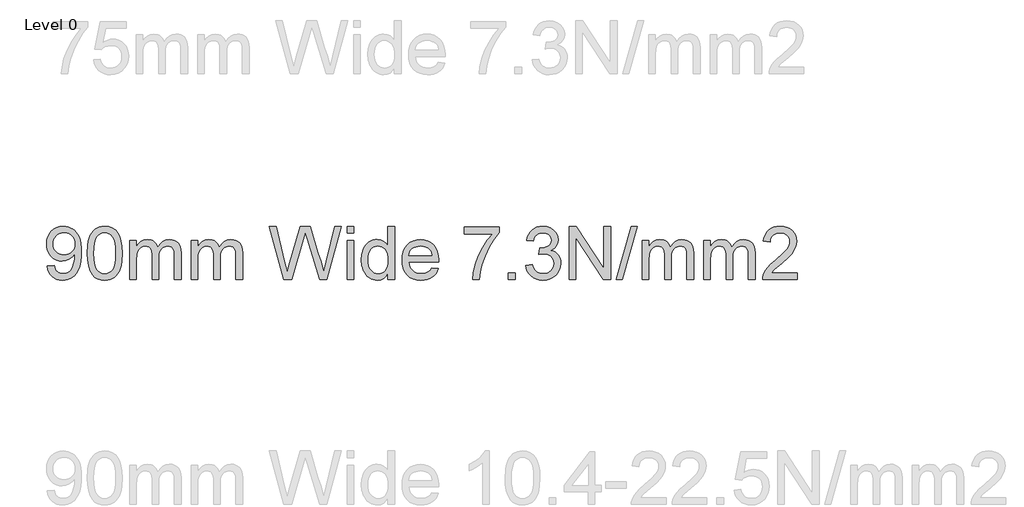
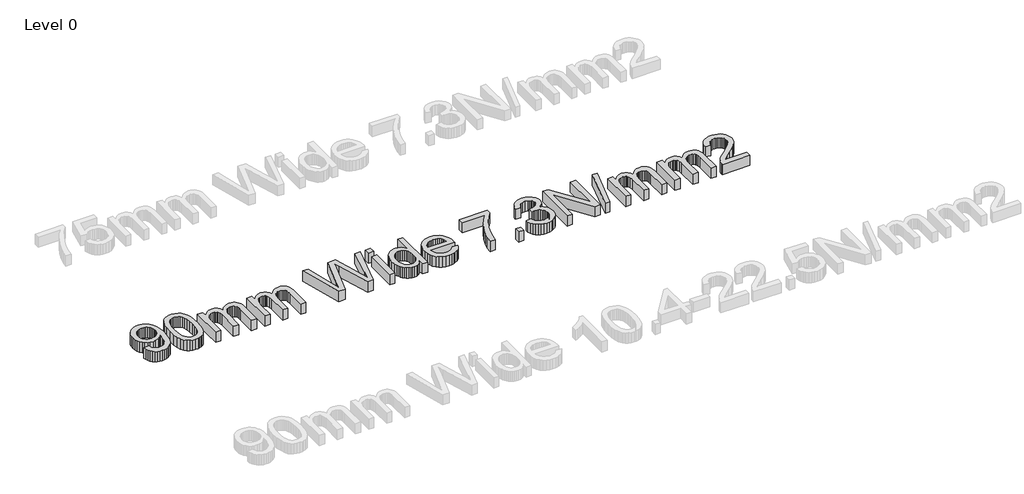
# One storey, part 6 of 14: 1 proxy.
"""IFC4 building model written with IfcOpenShell, lengths in millimetres."""

import ifcopenshell
import ifcopenshell.guid

model = None  # the IFC model being written
_history = None  # IfcOwnerHistory: only IFC2X3 demands one
_inside = {}  # id of a spatial element -> (the spatial element, [elements in it])
_under = {}  # id of a project, library or spatial element -> (it, [spatial elements below it])
_declared = {}  # id of a project -> (the project, [libraries it declares])
_typed = {}  # id of a type object -> (the type object, [elements of that type])
_made_of = {}  # id of a material, layer set ... -> (it, [elements and type objects made of it])


def new_model(schema):
    """Start an empty IFC model of exactly this schema.

    Asked for "IFC4X3", IfcOpenShell would pick the latest addendum, in which some entities
    have other attributes; the version numbers below select the first issue.
    IFC2X3 requires an IfcOwnerHistory on every rooted entity: one is made here for all.
    """
    global model, _history
    if schema == "IFC4X3":
        model = ifcopenshell.file(schema_version=(4, 3, 0, 0))
    else:
        model = ifcopenshell.file(schema=schema)
    _inside.clear()
    _under.clear()
    _declared.clear()
    _typed.clear()
    _made_of.clear()
    _history = None
    if model.schema == "IFC2X3":
        org = make("IfcOrganization", Name="unknown")
        user = make(
            "IfcPersonAndOrganization",
            ThePerson=make("IfcPerson", FamilyName="unknown"),
            TheOrganization=org,
        )
        app = make(
            "IfcApplication",
            ApplicationDeveloper=org,
            Version="unknown",
            ApplicationFullName="unknown",
            ApplicationIdentifier="unknown",
        )
        _history = make(
            "IfcOwnerHistory",
            OwningUser=user,
            OwningApplication=app,
            ChangeAction="ADDED",
            CreationDate=0,
        )
    return model


def make(cls, **values):
    """One entity of the class cls with the attributes given. An attribute that is None is left unset."""
    return model.create_entity(
        cls, **{name: value for name, value in values.items() if value is not None}
    )


def rooted(cls, **values):
    """An entity with a GlobalId (a new one), such as an element, a storey or a relation."""
    return make(cls, GlobalId=ifcopenshell.guid.new(), OwnerHistory=_history, **values)


def si_unit(unit_type, name, prefix=None):
    """IfcSIUnit, for example si_unit("LENGTHUNIT", "METRE", prefix="MILLI")."""
    return make("IfcSIUnit", UnitType=unit_type, Prefix=prefix, Name=name)


def assignment(units):
    """IfcUnitAssignment: the units of a project."""
    return None if units is None else make("IfcUnitAssignment", Units=units)


def point(xyz):
    """IfcCartesianPoint."""
    return None if xyz is None else make("IfcCartesianPoint", Coordinates=xyz)


def direction(xyz):
    """IfcDirection."""
    return None if xyz is None else make("IfcDirection", DirectionRatios=xyz)


def frame(location, z_axis=None, x_axis=None):
    """IfcAxis2Placement3D, a coordinate frame: its origin and axes. An axis left out is left unset."""
    return make(
        "IfcAxis2Placement3D",
        Location=point(location),
        Axis=direction(z_axis),
        RefDirection=direction(x_axis),
    )


def origin():
    """The frame at (0, 0, 0) with its axes left unset."""
    return frame((0.0, 0.0, 0.0))


def origin_with_axes():
    """The frame at (0, 0, 0) with the z axis (0, 0, 1) and the x axis (1, 0, 0) written out."""
    return frame((0.0, 0.0, 0.0), z_axis=(0.0, 0.0, 1.0), x_axis=(1.0, 0.0, 0.0))


def place(relative_to, where):
    """IfcLocalPlacement: puts the frame where relative to a parent placement (None: the world)."""
    return make(
        "IfcLocalPlacement", PlacementRelTo=relative_to, RelativePlacement=where
    )


def context(
    kind, dimensions, precision=None, world=None, true_north=None, identifier=None
):
    """IfcGeometricRepresentationContext, for example the 3D "Model" context."""
    return make(
        "IfcGeometricRepresentationContext",
        ContextIdentifier=identifier,
        ContextType=kind,
        CoordinateSpaceDimension=dimensions,
        Precision=precision,
        WorldCoordinateSystem=world,
        TrueNorth=true_north,
    )


def project(units=None, contexts=None):
    """IfcProject with its units and contexts."""
    return rooted(
        "IfcProject",
        Name="project",
        RepresentationContexts=contexts,
        UnitsInContext=assignment(units),
    )


def spatial(cls, under=None, at=None, **own):
    """A site, building, storey or space (cls), placed at a placement, below another one or the project."""
    s = rooted(cls, ObjectPlacement=at, **own)
    if under is not None:
        _under.setdefault(under.id(), (under, []))[1].append(s)
    return s


def polyline(points):
    """IfcPolyline through the points."""
    return make("IfcPolyline", Points=[point(p) for p in points])


def outline(outer, holes=None, kind="AREA"):
    """IfcArbitraryClosedProfileDef: a profile drawn as a closed curve; with holes, ...WithVoids."""
    if holes is None:
        return make("IfcArbitraryClosedProfileDef", ProfileType=kind, OuterCurve=outer)
    return make(
        "IfcArbitraryProfileDefWithVoids",
        ProfileType=kind,
        OuterCurve=outer,
        InnerCurves=holes,
    )


def extrude(swept, where, along, depth):
    """IfcExtrudedAreaSolid: the profile swept, set in the frame where, extruded along a direction by depth."""
    return make(
        "IfcExtrudedAreaSolid",
        SweptArea=swept,
        Position=where,
        ExtrudedDirection=direction(along),
        Depth=depth,
    )


def shape(context_of_items, identifier, shape_type, items):
    """IfcShapeRepresentation: the items that make up one representation, for example the "Body"."""
    return make(
        "IfcShapeRepresentation",
        ContextOfItems=context_of_items,
        RepresentationIdentifier=identifier,
        RepresentationType=shape_type,
        Items=items,
    )


def made_of(thing, what):
    """Note that an element or type object is made of a material, layer set ...; save() writes the relation."""
    if what is not None:
        _made_of.setdefault(what.id(), (what, []))[1].append(thing)
    return thing


def element(
    cls,
    number,
    at=None,
    inside=None,
    cuts=None,
    type_object=None,
    material=None,
    context=None,
    identifier="Body",
    shape_type=None,
    held_by="IfcProductDefinitionShape",
    body=None,
    shapes=None,
    **own,
):
    """One element of the class cls, such as IfcWall. Its Tag is "e" and its number.

    at: its placement. inside: the storey or other place that contains it. cuts: it is an
    opening in that element (IfcRelVoidsElement). A single representation is given by context,
    identifier, shape_type and body (its items); several are given by shapes. held_by: the class
    of the entity that holds the representations. save() writes the other relations.
    """
    e = rooted(cls, Tag="e%d" % number, ObjectPlacement=at, **own)
    if body is not None:
        shapes = [shape(context, identifier, shape_type, body)]
    if shapes is not None:
        e.Representation = make(held_by, Representations=shapes)
    if inside is not None:
        _inside.setdefault(inside.id(), (inside, []))[1].append(e)
    if cuts is not None:
        rooted(
            "IfcRelVoidsElement", RelatingBuildingElement=cuts, RelatedOpeningElement=e
        )
    if type_object is not None:
        _typed.setdefault(type_object.id(), (type_object, []))[1].append(e)
    return made_of(e, material)


def aggregate(whole, parts):
    """IfcRelAggregates: a whole, such as a stair, and the parts it consists of."""
    return rooted("IfcRelAggregates", RelatingObject=whole, RelatedObjects=parts)


def save(model, path):
    """Write the relations noted so far, then the file.

    IfcRelAggregates (storeys below a building ...), IfcRelContainedInSpatialStructure (elements
    in a storey), IfcRelDefinesByType, IfcRelAssociatesMaterial and IfcRelDeclares: one each for
    every whole, place, type object, material and project.
    """
    for whole, parts in _under.values():
        aggregate(whole, parts)
    for where, things in _inside.values():
        rooted(
            "IfcRelContainedInSpatialStructure",
            RelatedElements=things,
            RelatingStructure=where,
        )
    for kind, things in _typed.values():
        rooted("IfcRelDefinesByType", RelatedObjects=things, RelatingType=kind)
    for what, things in _made_of.values():
        rooted("IfcRelAssociatesMaterial", RelatedObjects=things, RelatingMaterial=what)
    for by, libraries in _declared.values():
        rooted("IfcRelDeclares", RelatingContext=by, RelatedDefinitions=libraries)
    model.write(path)


model = new_model("IFC4")

# Units and contexts
model_context = context("Model", 3, world=origin())
ifc_project = project(units=[si_unit("LENGTHUNIT", "METRE", prefix="MILLI")], contexts=[model_context])

# Site, building, storey
site = spatial("IfcSite", under=ifc_project)
building = spatial("IfcBuilding", under=site)
storey = spatial("IfcBuildingStorey", under=building, Name="Level 0", Elevation=0.0)

# Proxy
placement = place(None, origin())
element("IfcBuildingElementProxy", 1, Name="600mm Arial", ObjectType="600mm Arial", at=placement, inside=storey, context=model_context, shape_type="SweptSolid", body=[
    extrude(outline(polyline([(-37902.4149048, 17565.513593), (-37828.568751, 17574.7443623), (-37815.9485587, 17532.827295), (-37806.6637029, 17516.8852878), (-37795.3956741, 17504.2876315), (-37782.2706741, 17494.7278358), (-37767.4149048, 17487.8994104), (-37732.5110587, 17482.43667), (-37701.1949529, 17485.952295), (-37672.7274048, 17496.49917), (-37649.0735587, 17512.9234488), (-37632.1985587, 17534.0712854), (-37619.4161068, 17561.8717661), (-37608.0399048, 17598.2539777), (-37600.0350972, 17640.0087854), (-37597.3668279, 17683.9270546), (-37597.7995202, 17698.3501315), (-37623.3824529, 17667.12417), (-37656.8620202, 17642.388593), (-37695.8223568, 17626.2708046), (-37737.8475972, 17620.8982084), (-37772.9272246, 17624.1794584), (-37805.1853375, 17634.0232084), (-37834.6219361, 17650.4294584), (-37861.2370202, 17673.3982084), (-37883.2908063, 17701.7305402), (-37899.0435106, 17734.2275354), (-37908.4951332, 17770.889194), (-37911.6456741, 17811.7155161), (-37908.341888, 17853.9030161), (-37898.4305298, 17891.763593), (-37881.9115996, 17925.2972469), (-37858.7850972, 17954.5039777), (-37830.6826332, 17978.1668382), (-37799.2358183, 17995.0688815), (-37764.4446524, 18005.2101075), (-37726.3091356, 18008.5905161), (-37698.1525851, 18006.6614296), (-37671.2310106, 18000.87417), (-37645.5444121, 17991.2287373), (-37621.0927895, 17977.7251315), (-37598.6919481, 17960.6518142), (-37579.1576933, 17940.2972469), (-37562.490025, 17916.6614296), (-37548.6889433, 17889.7443623), (-37537.8671284, 17857.9955642), (-37530.1372606, 17819.8645546), (-37525.4993399, 17775.3513334), (-37523.9533664, 17724.4559007), (-37525.4948327, 17671.0048791), (-37530.1192318, 17623.296045), (-37537.8265635, 17581.3293983), (-37548.6168279, 17545.1049392), (-37562.4494601, 17513.7392541), (-37579.2838952, 17486.3489296), (-37599.1201332, 17462.9339656), (-37621.9581741, 17443.4943623), (-37647.3382823, 17428.2239296), (-37674.8007222, 17417.3164777), (-37704.3454938, 17410.7720065), (-37735.9725972, 17408.5905161), (-37769.1366597, 17411.1641339), (-37799.1096164, 17418.8849873), (-37825.8914673, 17431.7530762), (-37849.4822125, 17449.7684007), (-37869.2869, 17472.444182), (-37884.7105779, 17499.2936411), (-37895.7532462, 17530.3167781), (-37902.4149048, 17565.513593)]), holes=[polyline([(-37597.7995202, 17813.4462854), (-37599.7917077, 17839.9126315), (-37605.7682702, 17863.4943623), (-37615.7292077, 17884.1914777), (-37629.6745202, 17902.0039777), (-37646.9191116, 17916.3278959), (-37666.7778856, 17926.5592661), (-37689.2508423, 17932.6980882), (-37714.3379818, 17934.7443623), (-37740.2274048, 17932.5403358), (-37763.6649048, 17925.9282565), (-37784.6504818, 17914.9081243), (-37803.1841356, 17899.4799392), (-37818.3283664, 17880.5451435), (-37829.1456741, 17859.0051796), (-37835.6360587, 17834.8600474), (-37837.7995202, 17808.1097469), (-37835.7532462, 17784.1178599), (-37829.6144241, 17762.4787373), (-37819.3830539, 17743.1923791), (-37805.0591356, 17726.2587854), (-37787.2376212, 17712.4712253), (-37766.5134625, 17702.622968), (-37742.8866597, 17696.7140137), (-37716.3572125, 17694.7443623), (-37691.6171284, 17696.7140137), (-37669.1757222, 17702.622968), (-37649.0329938, 17712.4712253), (-37631.1889433, 17726.2587854), (-37616.5810707, 17743.5259128), (-37606.146876, 17763.8128719), (-37599.8863592, 17787.1196628), (-37597.7995202, 17813.4462854)])]), origin_with_axes(), (0.0, 0.0, 1.0), 150.0),
    extrude(outline(polyline([(-37459.3379818, 17708.4462854), (-37453.9112991, 17803.0075834), (-37447.1279457, 17843.1082445), (-37437.631251, 17878.4222469), (-37425.4617798, 17909.2380522), (-37410.6600972, 17935.8441219), (-37393.2262029, 17958.240456), (-37373.1600972, 17976.4270546), (-37350.3941717, 17990.498569), (-37324.8608183, 18000.5496507), (-37296.5600371, 18006.5802998), (-37265.4918279, 18008.5905161), (-37219.9870202, 18003.8309007), (-37179.2418279, 17989.5520546), (-37145.1673087, 17966.3128719), (-37119.6745202, 17934.6722469), (-37100.4197125, 17894.9006123), (-37085.0591356, 17847.2684007), (-37074.9990395, 17786.7816219), (-37071.6456741, 17708.4462854), (-37077.0182702, 17614.4258527), (-37083.7340154, 17574.4604079), (-37093.1360587, 17539.1914777), (-37105.2108784, 17508.3621507), (-37119.9449529, 17481.7155161), (-37137.3382823, 17459.2515738), (-37157.3908664, 17440.9703238), (-37180.1838351, 17426.8041579), (-37205.7983183, 17416.685468), (-37234.2343159, 17410.6142541), (-37265.4918279, 17408.5905161), (-37306.1649048, 17412.1061411), (-37342.2225972, 17422.6530161), (-37373.6649048, 17440.2311411), (-37400.4918279, 17464.8405161), (-37426.2370202, 17509.326694), (-37444.6264433, 17564.7563815), (-37455.6600972, 17631.1295786), (-37459.3379818, 17708.4462854)]), holes=[polyline([(-37385.4918279, 17708.5905161), (-37383.3283664, 17644.3943022), (-37376.8379818, 17592.4306604), (-37366.0206741, 17552.6995906), (-37350.8764433, 17525.201093), (-37332.5591356, 17506.4916579), (-37312.2225972, 17493.1277757), (-37289.8668279, 17485.1094464), (-37265.4918279, 17482.43667), (-37241.1168279, 17485.1184608), (-37218.7610587, 17493.1638334), (-37198.4245202, 17506.5727878), (-37180.1072125, 17525.3453238), (-37164.9629818, 17552.8888935), (-37154.1456741, 17592.6109488), (-37147.6552895, 17644.5114897), (-37145.4918279, 17708.5905161), (-37147.5831741, 17771.0875113), (-37153.8572125, 17822.1361892), (-37164.3139433, 17861.7365498), (-37178.9533664, 17889.888593), (-37196.9641837, 17909.5129921), (-37217.5350972, 17923.53042), (-37240.6661068, 17931.9408767), (-37266.3572125, 17934.7443623), (-37290.6060106, 17932.2744104), (-37312.5831741, 17924.8645546), (-37332.2887029, 17912.514795), (-37349.7225972, 17895.2251315), (-37365.3716356, 17864.576093), (-37376.5495202, 17823.2539777), (-37383.256251, 17771.2587854), (-37385.4918279, 17708.5905161)])]), origin_with_axes(), (0.0, 0.0, 1.0), 150.0),
    extrude(outline(polyline([(-36988.568751, 17417.8212854), (-36988.568751, 17851.6674392), (-36914.7225972, 17851.6674392), (-36914.7225972, 17780.2732084), (-36892.5110587, 17813.0676796), (-36863.9533664, 17838.7587854), (-36830.0230779, 17855.3633527), (-36791.693751, 17860.8982084), (-36750.6240395, 17855.2551796), (-36733.1450731, 17848.2013935), (-36717.7033664, 17838.326093), (-36693.1120202, 17811.2287373), (-36677.0302895, 17775.0809007), (-36650.1132222, 17812.6259729), (-36619.4100972, 17839.4438815), (-36584.9209145, 17855.5346267), (-36546.6456741, 17860.8982084), (-36517.0828736, 17858.6671387), (-36491.1348568, 17851.9739296), (-36468.8016236, 17840.818581), (-36450.0831741, 17825.201093), (-36435.2859986, 17804.9411772), (-36424.7165875, 17779.858545), (-36418.3749409, 17749.9531964), (-36416.2610587, 17715.2251315), (-36416.2610587, 17417.8212854), (-36490.1072125, 17417.8212854), (-36490.1072125, 17683.4943623), (-36491.8199529, 17720.327295), (-36496.9581741, 17745.1530161), (-36506.5855779, 17762.154218), (-36521.7658664, 17775.513593), (-36541.2911068, 17784.1674392), (-36563.9533664, 17787.0520546), (-36584.8803496, 17785.2040979), (-36603.959376, 17779.6602277), (-36621.1904457, 17770.420444), (-36636.5735587, 17757.4847469), (-36649.2253015, 17740.4745305), (-36658.2622606, 17719.0111892), (-36663.6844361, 17693.0947229), (-36665.4918279, 17662.7251315), (-36665.4918279, 17417.8212854), (-36739.3379818, 17417.8212854), (-36739.3379818, 17691.7155161), (-36743.6108183, 17733.4703238), (-36756.4293279, 17763.2539777), (-36766.3406861, 17773.6656363), (-36778.9834145, 17781.1025354), (-36794.357513, 17785.5646748), (-36812.4629818, 17787.0520546), (-36840.912501, 17783.0857084), (-36867.1264433, 17771.18667), (-36888.7610587, 17751.6434007), (-36903.4725972, 17724.7443623), (-36911.9100972, 17687.4246507), (-36914.7225972, 17636.6193623), (-36914.7225972, 17417.8212854), (-36988.568751, 17417.8212854)])), origin_with_axes(), (0.0, 0.0, 1.0), 150.0),
    extrude(outline(polyline([(-36305.4918279, 17417.8212854), (-36305.4918279, 17851.6674392), (-36231.6456741, 17851.6674392), (-36231.6456741, 17780.2732084), (-36209.4341356, 17813.0676796), (-36180.8764433, 17838.7587854), (-36146.9461548, 17855.3633527), (-36108.6168279, 17860.8982084), (-36067.5471164, 17855.2551796), (-36050.06815, 17848.2013935), (-36034.6264433, 17838.326093), (-36010.0350972, 17811.2287373), (-35993.9533664, 17775.0809007), (-35967.0362991, 17812.6259729), (-35936.3331741, 17839.4438815), (-35901.8439914, 17855.5346267), (-35863.568751, 17860.8982084), (-35834.0059505, 17858.6671387), (-35808.0579337, 17851.9739296), (-35785.7247005, 17840.818581), (-35767.006251, 17825.201093), (-35752.2090755, 17804.9411772), (-35741.6396645, 17779.858545), (-35735.2980178, 17749.9531964), (-35733.1841356, 17715.2251315), (-35733.1841356, 17417.8212854), (-35807.0302895, 17417.8212854), (-35807.0302895, 17683.4943623), (-35808.7430298, 17720.327295), (-35813.881251, 17745.1530161), (-35823.5086548, 17762.154218), (-35838.6889433, 17775.513593), (-35858.2141837, 17784.1674392), (-35880.8764433, 17787.0520546), (-35901.8034265, 17785.2040979), (-35920.8824529, 17779.6602277), (-35938.1135226, 17770.420444), (-35953.4966356, 17757.4847469), (-35966.1483784, 17740.4745305), (-35975.1853375, 17719.0111892), (-35980.607513, 17693.0947229), (-35982.4149048, 17662.7251315), (-35982.4149048, 17417.8212854), (-36056.2610587, 17417.8212854), (-36056.2610587, 17691.7155161), (-36060.5338952, 17733.4703238), (-36073.3524048, 17763.2539777), (-36083.263763, 17773.6656363), (-36095.9064914, 17781.1025354), (-36111.2805899, 17785.5646748), (-36129.3860587, 17787.0520546), (-36157.8355779, 17783.0857084), (-36184.0495202, 17771.18667), (-36205.6841356, 17751.6434007), (-36220.3956741, 17724.7443623), (-36228.8331741, 17687.4246507), (-36231.6456741, 17636.6193623), (-36231.6456741, 17417.8212854), (-36305.4918279, 17417.8212854)])), origin_with_axes(), (0.0, 0.0, 1.0), 150.0),
    extrude(outline(polyline([(-35276.693751, 17417.8212854), (-35437.7995202, 18008.5905161), (-35361.6456741, 18008.5905161), (-35268.1841356, 17620.3212854), (-35239.3379818, 17500.4655161), (-35208.4725972, 17606.4751315), (-35091.3572125, 18008.5905161), (-34981.5975972, 18008.5905161), (-34896.5014433, 17717.1001315), (-34860.0471164, 17608.9270546), (-34833.1841356, 17500.4655161), (-34805.2033664, 17616.8597469), (-34710.8764433, 18008.5905161), (-34634.7225972, 18008.5905161), (-34795.9725972, 17417.8212854), (-34874.8668279, 17417.8212854), (-35016.5014433, 17873.5905161), (-35036.2610587, 17937.1962854), (-35058.4725972, 17860.6097469), (-35187.5591356, 17417.8212854), (-35276.693751, 17417.8212854)])), origin_with_axes(), (0.0, 0.0, 1.0), 150.0),
    extrude(outline(polyline([(-34570.1072125, 17417.8212854), (-34570.1072125, 17851.6674392), (-34496.2610587, 17851.6674392), (-34496.2610587, 17417.8212854), (-34570.1072125, 17417.8212854)])), origin_with_axes(), (0.0, 0.0, 1.0), 150.0),
    extrude(outline(polyline([(-34570.1072125, 17934.7443623), (-34570.1072125, 18008.5905161), (-34496.2610587, 18008.5905161), (-34496.2610587, 17934.7443623), (-34570.1072125, 17934.7443623)])), origin_with_axes(), (0.0, 0.0, 1.0), 150.0),
    extrude(outline(polyline([(-34117.7995202, 17417.8212854), (-34117.7995202, 17487.4847469), (-34139.8938712, 17452.9685209), (-34166.6576933, 17428.3140738), (-34198.0909866, 17413.5214055), (-34234.193751, 17408.5905161), (-34258.568751, 17410.3753719), (-34281.9341356, 17415.7299392), (-34304.2899048, 17424.654218), (-34325.6360587, 17437.1482084), (-34345.3055298, 17452.8378118), (-34362.631251, 17471.3489296), (-34377.6132222, 17492.6815618), (-34390.2514433, 17516.8357084), (-34400.2844962, 17543.3516339), (-34407.4509625, 17571.7696027), (-34413.1841356, 17634.31167), (-34407.9016837, 17696.0784969), (-34392.0543279, 17751.8597469), (-34380.1733183, 17776.7125113), (-34365.6600972, 17798.482343), (-34348.5146645, 17817.1692421), (-34328.7370202, 17832.7732084), (-34307.0257823, 17845.0778959), (-34284.0795683, 17853.8669584), (-34259.8983784, 17859.1403959), (-34234.4822125, 17860.8982084), (-34198.3524048, 17855.8681604), (-34166.4052895, 17840.7780161), (-34139.3259625, 17817.6470065), (-34117.7995202, 17788.4943623), (-34117.7995202, 18008.5905161), (-34043.9533664, 18008.5905161), (-34043.9533664, 17417.8212854), (-34117.7995202, 17417.8212854)]), holes=[polyline([(-34339.3379818, 17634.6001315), (-34337.25565, 17598.7903358), (-34331.0086548, 17567.8032565), (-34320.5969962, 17541.6388935), (-34306.0206741, 17520.2972469), (-34288.6138231, 17503.7332445), (-34269.7105779, 17491.9018142), (-34249.3109385, 17484.802956), (-34227.4149048, 17482.43667), (-34205.4152053, 17484.6947829), (-34185.1372606, 17491.4691219), (-34166.5810707, 17502.7596868), (-34149.7466356, 17518.5664777), (-34135.7697726, 17539.0156964), (-34125.7862991, 17564.233545), (-34119.7962149, 17594.2200233), (-34117.7995202, 17628.9751315), (-34119.8322726, 17667.0790979), (-34125.9305298, 17699.7563815), (-34136.0942919, 17727.0069825), (-34150.3235587, 17748.8309007), (-34167.5275851, 17765.5526555), (-34186.615626, 17777.4967661), (-34207.5876813, 17784.6632325), (-34230.443751, 17787.0520546), (-34252.772477, 17784.7578839), (-34273.1721164, 17777.8753719), (-34291.6426693, 17766.4045185), (-34308.1841356, 17750.3453238), (-34321.8139433, 17729.3462253), (-34331.5495202, 17703.0556604), (-34337.3908664, 17671.4736291), (-34339.3379818, 17634.6001315)])]), origin_with_axes(), (0.0, 0.0, 1.0), 150.0),
    extrude(outline(polyline([(-33629.4341356, 17547.0520546), (-33557.0302895, 17537.8212854), (-33568.1315515, 17508.8218863), (-33583.1180298, 17483.2659969), (-33601.9897246, 17461.1536171), (-33624.7466356, 17442.4847469), (-33651.154388, 17427.6560209), (-33680.9786068, 17417.0640738), (-33714.2192919, 17410.7089055), (-33750.8764433, 17408.5905161), (-33796.6967558, 17412.2458647), (-33837.5230779, 17423.2119104), (-33873.3554097, 17441.4886531), (-33904.193751, 17467.076093), (-33928.9924289, 17499.2620906), (-33946.7057702, 17537.3345065), (-33957.333775, 17581.2933406), (-33960.8764433, 17631.138593), (-33957.2977173, 17682.6740498), (-33946.5615395, 17728.0977277), (-33928.6679097, 17767.4096267), (-33903.6168279, 17800.6097469), (-33872.8596164, 17826.9859488), (-33837.8475972, 17845.826093), (-33798.5807702, 17857.1301796), (-33755.0591356, 17860.8982084), (-33712.9392438, 17857.139194), (-33674.8487991, 17845.8621507), (-33640.7878015, 17827.0670786), (-33610.756251, 17800.7539777), (-33586.2415274, 17767.6259729), (-33568.7310106, 17728.3861892), (-33558.2247005, 17683.0346267), (-33554.7225972, 17631.5712854), (-33555.1552895, 17611.6674392), (-33887.0302895, 17611.6674392), (-33882.7529457, 17582.1992902), (-33874.2478375, 17556.3909969), (-33861.5149649, 17534.2425594), (-33844.5543279, 17515.7539777), (-33824.3034265, 17501.1776555), (-33801.6997606, 17490.7659969), (-33776.7433303, 17484.5190017), (-33749.4341356, 17482.43667), (-33710.131251, 17486.294843), (-33677.0302895, 17497.8693623), (-33650.131251, 17517.8813815), (-33629.4341356, 17547.0520546)]), holes=[polyline([(-33887.0302895, 17685.513593), (-33628.568751, 17685.513593), (-33638.5567318, 17724.5280161), (-33647.147477, 17739.8705642), (-33658.1360587, 17752.43667), (-33678.2742798, 17767.5809007), (-33701.1889433, 17778.3982084), (-33726.8800491, 17784.888593), (-33755.3475972, 17787.0520546), (-33781.3136428, 17785.3257926), (-33805.1252414, 17780.1470065), (-33826.7823928, 17771.5156964), (-33846.2850972, 17759.4318623), (-33862.6507823, 17744.4543983), (-33874.896876, 17727.1421988), (-33883.0233784, 17707.4952637), (-33887.0302895, 17685.513593)])]), origin_with_axes(), (0.0, 0.0, 1.0), 150.0),
    extrude(outline(polyline([(-33268.568751, 17925.513593), (-33268.568751, 17999.3597469), (-32880.8764433, 17999.3597469), (-32880.8764433, 17939.6482084), (-32936.1348568, 17869.7143142), (-32990.8524048, 17780.7780161), (-33039.115626, 17680.952295), (-33075.0110587, 17578.3501315), (-33092.6072125, 17501.5833046), (-33102.4149048, 17417.8212854), (-33176.2610587, 17417.8212854), (-33168.2742798, 17493.9390738), (-33146.9100972, 17584.4078238), (-33112.7454337, 17680.3032565), (-33066.3572125, 17772.701093), (-33012.1985587, 17856.2287373), (-32954.7225972, 17925.513593), (-33268.568751, 17925.513593)])), origin_with_axes(), (0.0, 0.0, 1.0), 150.0),
    extrude(outline(polyline([(-32779.3379818, 17417.8212854), (-32779.3379818, 17491.6674392), (-32705.4918279, 17491.6674392), (-32705.4918279, 17417.8212854), (-32779.3379818, 17417.8212854)])), origin_with_axes(), (0.0, 0.0, 1.0), 150.0),
    extrude(outline(polyline([(-32585.4918279, 17574.7443623), (-32511.6456741, 17583.9751315), (-32495.1132222, 17537.5688815), (-32483.966888, 17520.0177998), (-32470.9004818, 17506.2347469), (-32455.6165274, 17495.8230882), (-32437.8175491, 17488.3861892), (-32417.5035467, 17483.9240498), (-32394.6745202, 17482.43667), (-32367.9197125, 17484.482944), (-32344.0495202, 17490.6217661), (-32323.0639433, 17500.8531363), (-32304.9629818, 17515.1770546), (-32290.3866597, 17532.5208046), (-32279.975001, 17551.81167), (-32273.7280058, 17573.0496507), (-32271.6456741, 17596.2347469), (-32273.709977, 17618.3155762), (-32279.9028856, 17638.404218), (-32290.2244, 17656.5006724), (-32304.6745202, 17672.6049392), (-32322.3067318, 17685.8245906), (-32342.1745202, 17695.2671988), (-32364.2778856, 17700.9327637), (-32388.6168279, 17702.8212854), (-32411.9461548, 17700.8020546), (-32440.3956741, 17694.7443623), (-32432.1745202, 17768.5905161), (-32420.3475972, 17767.7251315), (-32376.1048087, 17773.0256123), (-32336.5495202, 17788.9270546), (-32320.2694722, 17800.952295), (-32308.6408664, 17815.826093), (-32301.6637029, 17833.5484488), (-32299.3379818, 17854.1193623), (-32301.0236789, 17870.818581), (-32306.0807702, 17886.0123911), (-32314.5092558, 17899.7007926), (-32326.3091356, 17911.8837854), (-32340.7682702, 17921.8852878), (-32357.1745202, 17929.029218), (-32395.8283664, 17934.7443623), (-32434.5543279, 17928.9751315), (-32451.2670683, 17921.763593), (-32466.2129818, 17911.6674392), (-32479.022477, 17898.68667), (-32489.3259625, 17882.8212854), (-32497.1234385, 17864.0712854), (-32502.4149048, 17842.43667), (-32576.2610587, 17851.6674392), (-32567.5080539, 17886.9228479), (-32554.5182702, 17917.9775354), (-32537.2917077, 17944.8315017), (-32515.8283664, 17967.4847469), (-32490.8043279, 17985.4685209), (-32462.8956741, 17998.3140738), (-32432.1024048, 18006.0214055), (-32398.4245202, 18008.5905161), (-32352.0002414, 18003.5244104), (-32309.3620202, 17988.326093), (-32273.412501, 17964.3477277), (-32247.0543279, 17932.9414777), (-32230.8824529, 17896.7575834), (-32225.4918279, 17858.4462854), (-32230.6120202, 17822.74917), (-32245.9725972, 17790.3693623), (-32271.3572125, 17762.7852277), (-32306.5495202, 17741.4751315), (-32281.9401452, 17733.7768142), (-32260.3235587, 17722.7972469), (-32241.6997606, 17708.5364296), (-32226.068751, 17690.9943623), (-32213.7009625, 17670.6037373), (-32204.8668279, 17647.7972469), (-32199.5663472, 17622.5748911), (-32197.7995202, 17594.93667), (-32201.3331741, 17557.4727277), (-32211.9341356, 17522.9655161), (-32229.6024048, 17491.4150354), (-32254.3379818, 17462.8212854), (-32284.4731981, 17439.0953238), (-32318.3403856, 17422.1482084), (-32355.9395443, 17411.9799392), (-32397.2706741, 17408.5905161), (-32434.6264433, 17411.4841459), (-32468.6649048, 17420.1650354), (-32499.3860587, 17434.6331844), (-32526.7899048, 17454.888593), (-32549.7676693, 17479.7413575), (-32567.2105779, 17508.0015738), (-32579.1186308, 17539.6692421), (-32585.4918279, 17574.7443623)])), origin_with_axes(), (0.0, 0.0, 1.0), 150.0),
    extrude(outline(polyline([(-32105.4918279, 17417.8212854), (-32105.4918279, 18008.5905161), (-32026.4533664, 18008.5905161), (-31717.7995202, 17540.56167), (-31717.7995202, 18008.5905161), (-31643.9533664, 18008.5905161), (-31643.9533664, 17417.8212854), (-31722.9918279, 17417.8212854), (-32031.6456741, 17885.9943623), (-32031.6456741, 17417.8212854), (-32105.4918279, 17417.8212854)])), origin_with_axes(), (0.0, 0.0, 1.0), 150.0),
    extrude(outline(polyline([(-31579.3379818, 17417.8212854), (-31413.1841356, 18008.5905161), (-31346.5495202, 18008.5905161), (-31512.7033664, 17417.8212854), (-31579.3379818, 17417.8212854)])), origin_with_axes(), (0.0, 0.0, 1.0), 150.0),
    extrude(outline(polyline([(-31293.1841356, 17417.8212854), (-31293.1841356, 17851.6674392), (-31219.3379818, 17851.6674392), (-31219.3379818, 17780.2732084), (-31197.1264433, 17813.0676796), (-31168.568751, 17838.7587854), (-31134.6384625, 17855.3633527), (-31096.3091356, 17860.8982084), (-31055.2394241, 17855.2551796), (-31037.7604577, 17848.2013935), (-31022.318751, 17838.326093), (-30997.7274048, 17811.2287373), (-30981.6456741, 17775.0809007), (-30954.7286068, 17812.6259729), (-30924.0254818, 17839.4438815), (-30889.5362991, 17855.5346267), (-30851.2610587, 17860.8982084), (-30821.6982582, 17858.6671387), (-30795.7502414, 17851.9739296), (-30773.4170082, 17840.818581), (-30754.6985587, 17825.201093), (-30739.9013832, 17804.9411772), (-30729.3319722, 17779.858545), (-30722.9903255, 17749.9531964), (-30720.8764433, 17715.2251315), (-30720.8764433, 17417.8212854), (-30794.7225972, 17417.8212854), (-30794.7225972, 17683.4943623), (-30796.4353375, 17720.327295), (-30801.5735587, 17745.1530161), (-30811.2009625, 17762.154218), (-30826.381251, 17775.513593), (-30845.9064914, 17784.1674392), (-30868.568751, 17787.0520546), (-30889.4957342, 17785.2040979), (-30908.5747606, 17779.6602277), (-30925.8058303, 17770.420444), (-30941.1889433, 17757.4847469), (-30953.8406861, 17740.4745305), (-30962.8776452, 17719.0111892), (-30968.2998207, 17693.0947229), (-30970.1072125, 17662.7251315), (-30970.1072125, 17417.8212854), (-31043.9533664, 17417.8212854), (-31043.9533664, 17691.7155161), (-31048.2262029, 17733.4703238), (-31061.0447125, 17763.2539777), (-31070.9560707, 17773.6656363), (-31083.5987991, 17781.1025354), (-31098.9728976, 17785.5646748), (-31117.0783664, 17787.0520546), (-31145.5278856, 17783.0857084), (-31171.7418279, 17771.18667), (-31193.3764433, 17751.6434007), (-31208.0879818, 17724.7443623), (-31216.5254818, 17687.4246507), (-31219.3379818, 17636.6193623), (-31219.3379818, 17417.8212854), (-31293.1841356, 17417.8212854)])), origin_with_axes(), (0.0, 0.0, 1.0), 150.0),
    extrude(outline(polyline([(-30610.1072125, 17417.8212854), (-30610.1072125, 17851.6674392), (-30536.2610587, 17851.6674392), (-30536.2610587, 17780.2732084), (-30514.0495202, 17813.0676796), (-30485.4918279, 17838.7587854), (-30451.5615395, 17855.3633527), (-30413.2322125, 17860.8982084), (-30372.162501, 17855.2551796), (-30354.6835347, 17848.2013935), (-30339.2418279, 17838.326093), (-30314.6504818, 17811.2287373), (-30298.568751, 17775.0809007), (-30271.6516837, 17812.6259729), (-30240.9485587, 17839.4438815), (-30206.459376, 17855.5346267), (-30168.1841356, 17860.8982084), (-30138.6213351, 17858.6671387), (-30112.6733183, 17851.9739296), (-30090.3400851, 17840.818581), (-30071.6216356, 17825.201093), (-30056.8244601, 17804.9411772), (-30046.2550491, 17779.858545), (-30039.9134024, 17749.9531964), (-30037.7995202, 17715.2251315), (-30037.7995202, 17417.8212854), (-30111.6456741, 17417.8212854), (-30111.6456741, 17683.4943623), (-30113.3584145, 17720.327295), (-30118.4966356, 17745.1530161), (-30128.1240395, 17762.154218), (-30143.3043279, 17775.513593), (-30162.8295683, 17784.1674392), (-30185.4918279, 17787.0520546), (-30206.4188111, 17785.2040979), (-30225.4978375, 17779.6602277), (-30242.7289073, 17770.420444), (-30258.1120202, 17757.4847469), (-30270.763763, 17740.4745305), (-30279.8007222, 17719.0111892), (-30285.2228976, 17693.0947229), (-30287.0302895, 17662.7251315), (-30287.0302895, 17417.8212854), (-30360.8764433, 17417.8212854), (-30360.8764433, 17691.7155161), (-30365.1492798, 17733.4703238), (-30377.9677895, 17763.2539777), (-30387.8791476, 17773.6656363), (-30400.521876, 17781.1025354), (-30415.8959746, 17785.5646748), (-30434.0014433, 17787.0520546), (-30462.4509625, 17783.0857084), (-30488.6649048, 17771.18667), (-30510.2995202, 17751.6434007), (-30525.0110587, 17724.7443623), (-30533.4485587, 17687.4246507), (-30536.2610587, 17636.6193623), (-30536.2610587, 17417.8212854), (-30610.1072125, 17417.8212854)])), origin_with_axes(), (0.0, 0.0, 1.0), 150.0),
    extrude(outline(polyline([(-29567.0302895, 17491.6674392), (-29567.0302895, 17417.8212854), (-29954.7225972, 17417.8212854), (-29953.100001, 17443.8188815), (-29946.7899048, 17468.7347469), (-29928.5807702, 17508.5244104), (-29901.9341356, 17547.12417), (-29863.3884625, 17587.5268142), (-29809.4822125, 17632.7251315), (-29729.7947125, 17703.5063815), (-29681.9822125, 17755.7539777), (-29668.0369, 17777.1001315), (-29658.0759625, 17798.1578238), (-29652.0994, 17818.9270546), (-29650.1072125, 17839.4078238), (-29651.9867198, 17858.6761531), (-29657.6252414, 17876.3849873), (-29667.0227774, 17892.5343262), (-29680.1793279, 17907.12417), (-29696.3647246, 17919.2080041), (-29714.8487991, 17927.8393142), (-29735.6315515, 17933.0181003), (-29758.7129818, 17934.7443623), (-29783.029388, 17933.0586652), (-29804.7766837, 17928.0015738), (-29823.9548688, 17919.5730882), (-29840.5639433, 17907.7732084), (-29853.9999409, 17892.998569), (-29863.6588952, 17875.6458046), (-29869.5408063, 17855.7149152), (-29871.6456741, 17833.2059007), (-29945.4918279, 17842.43667), (-29939.1411669, 17880.5586652), (-29927.5891837, 17913.8669584), (-29910.8358784, 17942.3615498), (-29888.881251, 17966.0424392), (-29862.2301092, 17984.6572229), (-29831.3872606, 17997.9534969), (-29796.3527053, 18005.9312613), (-29757.1264433, 18008.5905161), (-29717.5486188, 18005.6337854), (-29682.3247606, 17996.763593), (-29651.4548688, 17981.9799392), (-29624.9389433, 17961.2828238), (-29603.6423688, 17936.2046988), (-29588.4305298, 17908.2780161), (-29579.3034265, 17877.5027757), (-29576.2610587, 17843.8789777), (-29579.5423087, 17808.560468), (-29589.3860587, 17773.8549392), (-29606.8560106, 17738.5544584), (-29633.0158664, 17701.451093), (-29674.7165875, 17657.154218), (-29738.8091356, 17600.2732084), (-29823.7610587, 17529.2395546), (-29857.0783664, 17491.6674392), (-29567.0302895, 17491.6674392)])), origin_with_axes(), (0.0, 0.0, 1.0), 150.0),
])

save(model, "model.ifc")
